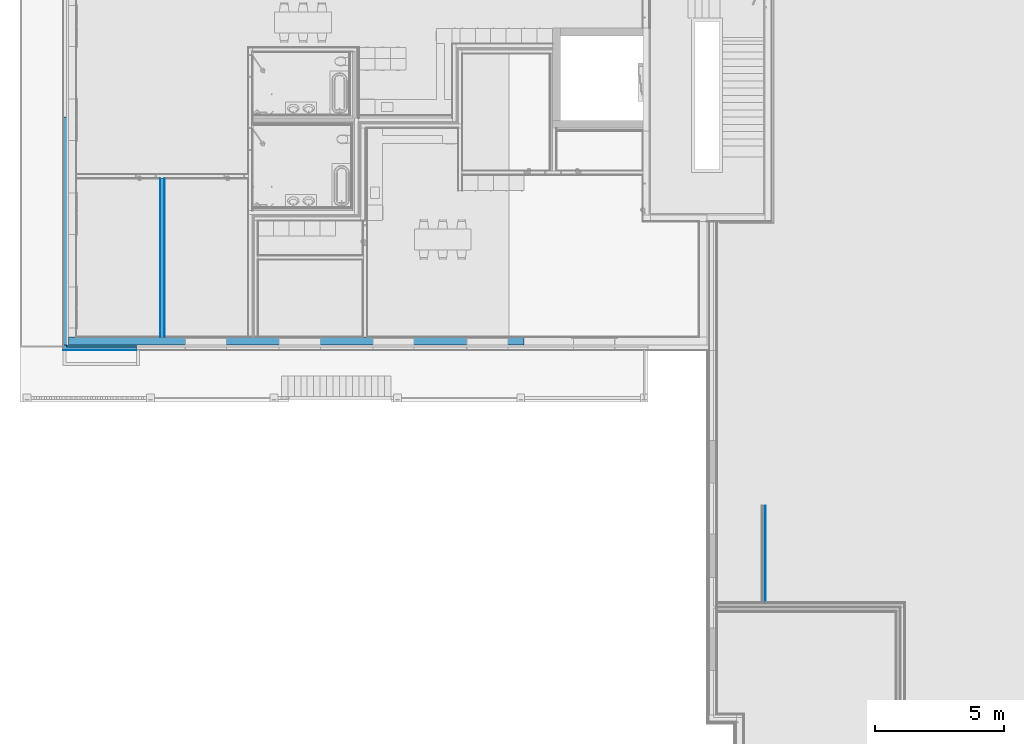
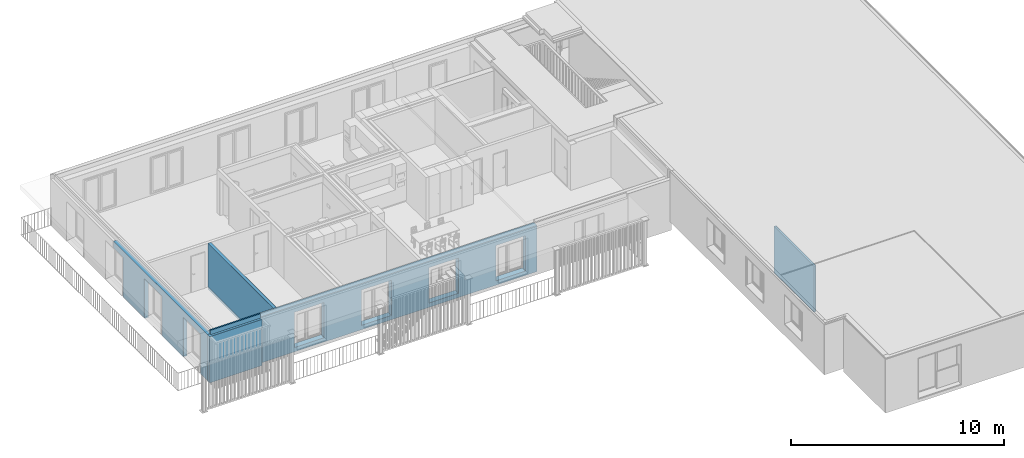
# One storey, part 5 of 34: 9 building element parts, 7 openings, 5 elements without a shape of their own.
"""IFC4 building model written with IfcOpenShell, lengths in millimetres."""

import ifcopenshell
import ifcopenshell.guid

model = None  # the IFC model being written
_history = None  # IfcOwnerHistory: only IFC2X3 demands one
_inside = {}  # id of a spatial element -> (the spatial element, [elements in it])
_under = {}  # id of a project, library or spatial element -> (it, [spatial elements below it])
_declared = {}  # id of a project -> (the project, [libraries it declares])
_typed = {}  # id of a type object -> (the type object, [elements of that type])
_made_of = {}  # id of a material, layer set ... -> (it, [elements and type objects made of it])


def new_model(schema):
    """Start an empty IFC model of exactly this schema.

    Asked for "IFC4X3", IfcOpenShell would pick the latest addendum, in which some entities
    have other attributes; the version numbers below select the first issue.
    IFC2X3 requires an IfcOwnerHistory on every rooted entity: one is made here for all.
    """
    global model, _history
    if schema == "IFC4X3":
        model = ifcopenshell.file(schema_version=(4, 3, 0, 0))
    else:
        model = ifcopenshell.file(schema=schema)
    _inside.clear()
    _under.clear()
    _declared.clear()
    _typed.clear()
    _made_of.clear()
    _history = None
    if model.schema == "IFC2X3":
        org = make("IfcOrganization", Name="unknown")
        user = make(
            "IfcPersonAndOrganization",
            ThePerson=make("IfcPerson", FamilyName="unknown"),
            TheOrganization=org,
        )
        app = make(
            "IfcApplication",
            ApplicationDeveloper=org,
            Version="unknown",
            ApplicationFullName="unknown",
            ApplicationIdentifier="unknown",
        )
        _history = make(
            "IfcOwnerHistory",
            OwningUser=user,
            OwningApplication=app,
            ChangeAction="ADDED",
            CreationDate=0,
        )
    return model


def make(cls, **values):
    """One entity of the class cls with the attributes given. An attribute that is None is left unset."""
    return model.create_entity(
        cls, **{name: value for name, value in values.items() if value is not None}
    )


def entity(cls, *values):
    """Any entity or typed value of the class cls, its attributes in the order of the schema. None: left unset."""
    e = model.create_entity(cls)
    for i, value in enumerate(values):
        if value is not None:
            e[i] = value
    return e


def rooted(cls, **values):
    """An entity with a GlobalId (a new one), such as an element, a storey or a relation."""
    return make(cls, GlobalId=ifcopenshell.guid.new(), OwnerHistory=_history, **values)


def si_unit(unit_type, name, prefix=None):
    """IfcSIUnit, for example si_unit("LENGTHUNIT", "METRE", prefix="MILLI")."""
    return make("IfcSIUnit", UnitType=unit_type, Prefix=prefix, Name=name)


def converted_unit(unit_type, name, factor, base, dimensions=None, offset=None):
    """IfcConversionBasedUnit, such as the inch: factor (a typed value) times the base unit."""
    return make(
        "IfcConversionBasedUnit"
        if offset is None
        else "IfcConversionBasedUnitWithOffset",
        ConversionOffset=offset,
        Dimensions=None
        if dimensions is None
        else entity("IfcDimensionalExponents", *dimensions),
        UnitType=unit_type,
        Name=name,
        ConversionFactor=make(
            "IfcMeasureWithUnit", ValueComponent=factor, UnitComponent=base
        ),
    )


def derived_unit(unit_type, elements):
    """IfcDerivedUnit: a product of units, each with its exponent."""
    return make(
        "IfcDerivedUnit",
        Elements=[
            make("IfcDerivedUnitElement", Unit=unit, Exponent=power)
            for unit, power in elements
        ],
        UnitType=unit_type,
    )


def assignment(units):
    """IfcUnitAssignment: the units of a project."""
    return None if units is None else make("IfcUnitAssignment", Units=units)


def point(xyz):
    """IfcCartesianPoint."""
    return None if xyz is None else make("IfcCartesianPoint", Coordinates=xyz)


def direction(xyz):
    """IfcDirection."""
    return None if xyz is None else make("IfcDirection", DirectionRatios=xyz)


def frame(location, z_axis=None, x_axis=None):
    """IfcAxis2Placement3D, a coordinate frame: its origin and axes. An axis left out is left unset."""
    return make(
        "IfcAxis2Placement3D",
        Location=point(location),
        Axis=direction(z_axis),
        RefDirection=direction(x_axis),
    )


def origin_with_axes():
    """The frame at (0, 0, 0) with the z axis (0, 0, 1) and the x axis (1, 0, 0) written out."""
    return frame((0.0, 0.0, 0.0), z_axis=(0.0, 0.0, 1.0), x_axis=(1.0, 0.0, 0.0))


def place(relative_to, where):
    """IfcLocalPlacement: puts the frame where relative to a parent placement (None: the world)."""
    return make(
        "IfcLocalPlacement", PlacementRelTo=relative_to, RelativePlacement=where
    )


def context(
    kind, dimensions, precision=None, world=None, true_north=None, identifier=None
):
    """IfcGeometricRepresentationContext, for example the 3D "Model" context."""
    return make(
        "IfcGeometricRepresentationContext",
        ContextIdentifier=identifier,
        ContextType=kind,
        CoordinateSpaceDimension=dimensions,
        Precision=precision,
        WorldCoordinateSystem=world,
        TrueNorth=true_north,
    )


def subcontext(parent, identifier, kind, view, scale=None):
    """IfcGeometricRepresentationSubContext, for example "Body" below "Model"."""
    return make(
        "IfcGeometricRepresentationSubContext",
        ContextIdentifier=identifier,
        ContextType=kind,
        ParentContext=parent,
        TargetScale=scale,
        TargetView=view,
    )


def project(units=None, contexts=None):
    """IfcProject with its units and contexts."""
    return rooted(
        "IfcProject",
        Name="project",
        RepresentationContexts=contexts,
        UnitsInContext=assignment(units),
    )


def spatial(cls, under=None, at=None, **own):
    """A site, building, storey or space (cls), placed at a placement, below another one or the project."""
    s = rooted(cls, ObjectPlacement=at, **own)
    if under is not None:
        _under.setdefault(under.id(), (under, []))[1].append(s)
    return s


def point_list(points):
    """IfcCartesianPointList2D or 3D."""
    cls = (
        "IfcCartesianPointList2D" if len(points[0]) == 2 else "IfcCartesianPointList3D"
    )
    return make(cls, CoordList=points)


def polygons(points, faces, closed=None, point_numbers=None):
    """IfcPolygonalFaceSet: a face is its outer loop, then its inner loops; points numbered from 1."""
    made = []
    for loops in faces:
        if len(loops) == 1:
            made.append(make("IfcIndexedPolygonalFace", CoordIndex=loops[0]))
        else:
            made.append(
                make(
                    "IfcIndexedPolygonalFaceWithVoids",
                    CoordIndex=loops[0],
                    InnerCoordIndices=loops[1:],
                )
            )
    return make(
        "IfcPolygonalFaceSet",
        Coordinates=point_list(points),
        Closed=closed,
        Faces=made,
        PnIndex=point_numbers,
    )


def shape(context_of_items, identifier, shape_type, items):
    """IfcShapeRepresentation: the items that make up one representation, for example the "Body"."""
    return make(
        "IfcShapeRepresentation",
        ContextOfItems=context_of_items,
        RepresentationIdentifier=identifier,
        RepresentationType=shape_type,
        Items=items,
    )


def material(Name=None, Category=None):
    """IfcMaterial."""
    return make("IfcMaterial", Name=Name, Category=Category)


def made_of(thing, what):
    """Note that an element or type object is made of a material, layer set ...; save() writes the relation."""
    if what is not None:
        _made_of.setdefault(what.id(), (what, []))[1].append(thing)
    return thing


def type_object(cls, material=None, **own):
    """A type object (cls), such as IfcWallType, which elements share."""
    return made_of(rooted(cls, **own), material)


def element(
    cls,
    number,
    at=None,
    inside=None,
    cuts=None,
    type_object=None,
    material=None,
    context=None,
    identifier="Body",
    shape_type=None,
    held_by="IfcProductDefinitionShape",
    body=None,
    shapes=None,
    **own,
):
    """One element of the class cls, such as IfcWall. Its Tag is "e" and its number.

    at: its placement. inside: the storey or other place that contains it. cuts: it is an
    opening in that element (IfcRelVoidsElement). A single representation is given by context,
    identifier, shape_type and body (its items); several are given by shapes. held_by: the class
    of the entity that holds the representations. save() writes the other relations.
    """
    e = rooted(cls, Tag="e%d" % number, ObjectPlacement=at, **own)
    if body is not None:
        shapes = [shape(context, identifier, shape_type, body)]
    if shapes is not None:
        e.Representation = make(held_by, Representations=shapes)
    if inside is not None:
        _inside.setdefault(inside.id(), (inside, []))[1].append(e)
    if cuts is not None:
        rooted(
            "IfcRelVoidsElement", RelatingBuildingElement=cuts, RelatedOpeningElement=e
        )
    if type_object is not None:
        _typed.setdefault(type_object.id(), (type_object, []))[1].append(e)
    return made_of(e, material)


def aggregate(whole, parts):
    """IfcRelAggregates: a whole, such as a stair, and the parts it consists of."""
    return rooted("IfcRelAggregates", RelatingObject=whole, RelatedObjects=parts)


def save(model, path):
    """Write the relations noted so far, then the file.

    IfcRelAggregates (storeys below a building ...), IfcRelContainedInSpatialStructure (elements
    in a storey), IfcRelDefinesByType, IfcRelAssociatesMaterial and IfcRelDeclares: one each for
    every whole, place, type object, material and project.
    """
    for whole, parts in _under.values():
        aggregate(whole, parts)
    for where, things in _inside.values():
        rooted(
            "IfcRelContainedInSpatialStructure",
            RelatedElements=things,
            RelatingStructure=where,
        )
    for kind, things in _typed.values():
        rooted("IfcRelDefinesByType", RelatedObjects=things, RelatingType=kind)
    for what, things in _made_of.values():
        rooted("IfcRelAssociatesMaterial", RelatedObjects=things, RelatingMaterial=what)
    for by, libraries in _declared.values():
        rooted("IfcRelDeclares", RelatingContext=by, RelatedDefinitions=libraries)
    model.write(path)


model = new_model("IFC4")

# Units and contexts
model_context = context("Model", 3, precision=0.01, world=origin_with_axes(), true_north=direction((0.0, 1.0)))
body_context = subcontext(model_context, "Body", "Model", "MODEL_VIEW")
ifc_project = project(units=[si_unit("LENGTHUNIT", "METRE", prefix="MILLI"), si_unit("AREAUNIT", "SQUARE_METRE"), si_unit("VOLUMEUNIT", "CUBIC_METRE"), converted_unit("PLANEANGLEUNIT", "DEGREE", entity("IfcPlaneAngleMeasure", 0.0174532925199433), si_unit("PLANEANGLEUNIT", "RADIAN"), dimensions=[0, 0, 0, 0, 0, 0, 0]), converted_unit("TIMEUNIT", "Year", entity("IfcTimeMeasure", 31557600.0), si_unit("TIMEUNIT", "SECOND"), dimensions=[0, 0, 1, 0, 0, 0, 0]), si_unit("MASSUNIT", "GRAM", prefix="KILO"), si_unit("THERMODYNAMICTEMPERATUREUNIT", "DEGREE_CELSIUS"), si_unit("LUMINOUSINTENSITYUNIT", "LUMEN"), si_unit("ENERGYUNIT", "JOULE", prefix="MEGA"), derived_unit("THERMALCONDUCTANCEUNIT", [(si_unit("POWERUNIT", "WATT"), 1), (si_unit("LENGTHUNIT", "METRE"), -1), (si_unit("THERMODYNAMICTEMPERATUREUNIT", "KELVIN"), -1)]), derived_unit("SPECIFICHEATCAPACITYUNIT", [(si_unit("ENERGYUNIT", "JOULE"), 1), (si_unit("MASSUNIT", "GRAM", prefix="KILO"), -1), (si_unit("THERMODYNAMICTEMPERATUREUNIT", "KELVIN"), -1)]), derived_unit("MASSDENSITYUNIT", [(si_unit("MASSUNIT", "GRAM", prefix="KILO"), 1), (si_unit("VOLUMEUNIT", "CUBIC_METRE"), -1)])], contexts=[model_context])

# Site, building, storey
site_placement = place(None, origin_with_axes())
site = spatial("IfcSite", under=ifc_project, at=site_placement, Name="Gelände", CompositionType="ELEMENT")
building_placement = place(site_placement, origin_with_axes())
building = spatial("IfcBuilding", under=site, at=building_placement, Name="Gebäude", CompositionType="ELEMENT")
storey_placement = place(building_placement, frame((0.0, 0.0, 2900.0), z_axis=(0.0, 0.0, 1.0), x_axis=(1.0, 0.0, 0.0)))
storey = spatial("IfcBuildingStorey", under=building, at=storey_placement, Name="1.OG", CompositionType="ELEMENT", Elevation=2900.0)

# Wall, building element parts
wall_type_1 = type_object("IfcWallType", Name="Innenwand Typ 01 154", PredefinedType="NOTDEFINED")
wall_1_placement = place(storey_placement, frame((20053.50474128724, 13160.59728131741, 500.0), z_axis=(0.0, 0.0, 1.0), x_axis=(0.0, 1.0, 0.0)))
wall_1 = element("IfcWall", 1, at=wall_1_placement, inside=storey, type_object=wall_type_1, Name="Wand-014", PredefinedType="NOTDEFINED")
ifc_material_1 = material(Name="Ständer Konstruktion gedämmt")
building_element_part_1_placement = place(wall_1_placement, origin_with_axes())
building_element_part_1 = element("IfcBuildingElementPart", 2, at=building_element_part_1_placement, material=ifc_material_1, Name="Ständer Konstruktion gedämmt", PredefinedType="NOTDEFINED", context=body_context, shape_type="Tessellation", body=[
    polygons([(3761.05371447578, -126.9999999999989, 2643.999999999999), (3761.05371447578, -27.00000000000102, 2643.999999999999), (-9.999999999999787, -27.00000000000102, 2643.999999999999), (-9.999999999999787, -126.9999999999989, 2643.999999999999), (3761.05371447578, -126.9999999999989, 0.0), (3761.05371447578, -27.00000000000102, 0.0), (-9.999999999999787, -27.00000000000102, 0.0), (-9.999999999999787, -126.9999999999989, 0.0)], [[[1, 2, 3, 4]], [[1, 5, 6, 2]], [[2, 6, 7, 3]], [[4, 3, 7, 8]], [[5, 1, 4, 8]], [[6, 5, 8, 7]]], closed=True),
])
ifc_material_2 = material(Name="Dreischichtplatte DSP")
building_element_part_2_placement = place(wall_1_placement, origin_with_axes())
building_element_part_2 = element("IfcBuildingElementPart", 3, at=building_element_part_2_placement, material=ifc_material_2, Name="Dreischichtplatte DSP", PredefinedType="NOTDEFINED", context=body_context, shape_type="Tessellation", body=[
    polygons([(3761.05371447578, -153.9999999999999, 2643.999999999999), (3761.05371447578, -126.9999999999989, 2643.999999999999), (-9.999999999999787, -126.9999999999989, 2643.999999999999), (-9.999999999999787, -153.9999999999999, 2643.999999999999), (3761.05371447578, -153.9999999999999, 0.0), (3761.05371447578, -126.9999999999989, 0.0), (-9.999999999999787, -126.9999999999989, 0.0), (-9.999999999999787, -153.9999999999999, 0.0)], [[[1, 2, 3, 4]], [[1, 5, 6, 2]], [[2, 6, 7, 3]], [[4, 3, 7, 8]], [[5, 1, 4, 8]], [[6, 5, 8, 7]]], closed=True),
])
aggregate(wall_1, [building_element_part_1, building_element_part_2])

# Curtain wall, openings, building element part
curtain_wall_type = type_object("IfcCurtainWallType", Name="Fassade Typ 01 - Kompaktfassade 210", PredefinedType="NOTDEFINED")
curtain_wall_1_placement = place(storey_placement, frame((-7071.004181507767, 31997.59699912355, 0.0), z_axis=(0.0, 0.0, 1.0), x_axis=(0.0, -1.0, 0.0)))
curtain_wall_1 = element("IfcCurtainWall", 4, at=curtain_wall_1_placement, inside=storey, type_object=curtain_wall_type, Name="Wand-014", PredefinedType="NOTDEFINED")
opening_1_placement = place(curtain_wall_1_placement, frame((3745.99971780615, 0.0, 0.0), z_axis=(0.0, 0.0, 1.0), x_axis=(1.0, 0.0, 0.0)))
element("IfcOpeningElement", 5, at=opening_1_placement, cuts=curtain_wall_1, Name="Fenster-004", context=body_context, identifier="Reference", shape_type="Tessellation", body=[
    polygons([(-801.9999999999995, -1.000000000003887, 2271.999948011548), (-801.9999999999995, -1.000000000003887, 0.0), (801.9999999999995, -1.000000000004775, 0.0), (801.9999999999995, -1.000000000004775, 2271.999948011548), (-801.9999999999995, 211.0000000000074, 2271.999948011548), (-801.9999999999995, 211.0000000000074, 0.0), (801.9999999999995, 211.0000000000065, 0.0), (801.9999999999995, 211.0000000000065, 2271.999948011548)], [[[1, 2, 3, 4]], [[5, 6, 2, 1]], [[6, 7, 3, 2]], [[7, 8, 4, 3]], [[8, 5, 1, 4]], [[7, 6, 5, 8]]], closed=True),
])
opening_2_placement = place(curtain_wall_1_placement, frame((103.9997178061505, 0.0, 0.0), z_axis=(0.0, 0.0, 1.0), x_axis=(1.0, 0.0, 0.0)))
element("IfcOpeningElement", 6, at=opening_2_placement, cuts=curtain_wall_1, Name="Fenster-004", context=body_context, identifier="Reference", shape_type="Tessellation", body=[
    polygons([(-802.0000000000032, -1.000000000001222, 2271.999948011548), (-802.0000000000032, -1.00000000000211, 0.0), (801.9999999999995, -1.00000000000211, 0.0), (801.9999999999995, -1.00000000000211, 2271.999948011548), (-802.0000000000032, 211.0000000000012, 2271.999948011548), (-802.0000000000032, 211.0000000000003, 0.0), (801.9999999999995, 211.0000000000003, 0.0), (801.9999999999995, 211.0000000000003, 2271.999948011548)], [[[1, 2, 3, 4]], [[5, 6, 2, 1]], [[6, 7, 3, 2]], [[7, 8, 4, 3]], [[8, 5, 1, 4]], [[7, 6, 5, 8]]], closed=True),
])
opening_3_placement = place(curtain_wall_1_placement, frame((7387.999717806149, 0.0, 0.0), z_axis=(0.0, 0.0, 1.0), x_axis=(1.0, 0.0, 0.0)))
element("IfcOpeningElement", 7, at=opening_3_placement, cuts=curtain_wall_1, Name="Fenster-004", context=body_context, identifier="Reference", shape_type="Tessellation", body=[
    polygons([(-801.9999999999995, -1.000000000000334, 2271.999948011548), (-801.9999999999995, -1.000000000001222, 0.0), (801.9999999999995, -1.000000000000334, 0.0), (801.9999999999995, -1.000000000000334, 2271.999948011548), (-801.9999999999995, 211.0000000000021, 2271.999948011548), (-801.9999999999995, 211.0000000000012, 0.0), (801.9999999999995, 211.0000000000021, 0.0), (801.9999999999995, 211.0000000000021, 2271.999948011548)], [[[1, 2, 3, 4]], [[5, 6, 2, 1]], [[6, 7, 3, 2]], [[7, 8, 4, 3]], [[8, 5, 1, 4]], [[7, 6, 5, 8]]], closed=True),
])
ifc_material_3 = material(Name="Dämmung Aussen")
building_element_part_3_placement = place(curtain_wall_1_placement, origin_with_axes())
building_element_part_3 = element("IfcBuildingElementPart", 8, at=building_element_part_3_placement, material=ifc_material_3, Name="Dämmung Aussen", PredefinedType="NOTDEFINED", context=body_context, shape_type="Tessellation", body=[
    polygons([(8189.999717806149, 210.0000000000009, 0.0), (8189.999717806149, 210.0000000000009, 2271.999948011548), (6585.999717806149, 210.0, 2271.999948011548), (6585.999717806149, 210.0, 0.0), (4547.999717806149, 210.0, 0.0), (4547.999717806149, 210.0, 2271.999948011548), (2943.99971780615, 210.0000000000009, 2271.999948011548), (2943.99971780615, 210.0000000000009, 0.0), (905.9997178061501, 210.0, 0.0), (905.9997178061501, 210.0, 2271.999948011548), (0.0, 210.0, 2271.999948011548), (0.0, 210.0, 2649.999948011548), (8840.000258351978, 210.0000000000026, 2649.999948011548), (8840.000258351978, 210.0000000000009, 0.0), (8189.999717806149, 10.00000000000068, 0.0), (8189.999717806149, 10.00000000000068, 2271.999948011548), (6585.999717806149, 9.999999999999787, 2271.999948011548), (6585.999717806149, 9.999999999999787, 0.0), (4547.999717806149, 9.999999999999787, 0.0), (4547.999717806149, 10.00000000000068, 2271.999948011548), (2943.99971780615, 10.00000000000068, 2271.999948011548), (2943.99971780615, 10.00000000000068, 0.0), (905.9997178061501, 9.999999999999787, 0.0), (905.9997178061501, 9.999999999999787, 2271.999948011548), (0.0, 9.999999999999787, 2271.999948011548), (0.0, 9.999999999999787, 2649.999999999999), (8840.000258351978, 10.00000000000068, 2649.999999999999), (8840.000258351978, 130.0000000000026, 2649.999948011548), (8840.000258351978, 10.00000000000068, 0.0)], [[[1, 2, 3, 4, 5, 6, 7, 8, 9, 10, 11, 12, 13, 14]], [[2, 1, 15, 16]], [[3, 2, 16, 17]], [[4, 3, 17, 18]], [[4, 18, 19, 5]], [[19, 20, 6, 5]], [[20, 21, 7, 6]], [[21, 22, 8, 7]], [[9, 8, 22, 23]], [[9, 23, 24, 10]], [[11, 10, 24, 25]], [[25, 26, 12, 11]], [[13, 12, 26, 27, 28]], [[28, 27, 29, 14, 13]], [[15, 1, 14, 29]], [[16, 15, 29, 27, 26, 25, 24, 23, 22, 21, 20, 19, 18, 17]]], closed=True),
])
aggregate(curtain_wall_1, [building_element_part_3])

# Curtain wall, building element parts
curtain_wall_2_placement = place(storey_placement, frame((-7071.004181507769, 22947.59674077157, 0.0), z_axis=(0.0, 0.0, 1.0), x_axis=(1.0, 0.0, 0.0)))
curtain_wall_2 = element("IfcCurtainWall", 9, at=curtain_wall_2_placement, inside=storey, type_object=curtain_wall_type, Name="Wand-014", PredefinedType="NOTDEFINED")
building_element_part_4_placement = place(curtain_wall_2_placement, origin_with_axes())
building_element_part_4 = element("IfcBuildingElementPart", 10, at=building_element_part_4_placement, material=ifc_material_3, Name="Dämmung Aussen", PredefinedType="NOTDEFINED", context=body_context, shape_type="Tessellation", body=[
    polygons([(9.999999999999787, 210.0000000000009, 0.0), (9.999999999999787, 210.0000000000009, 2649.999999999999), (130.0000000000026, 210.0000000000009, 2649.999999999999), (130.0000000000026, 210.0000000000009, 2899.999999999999), (2842.75757867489, 210.0000000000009, 2899.999999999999), (2842.75757867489, 210.0000000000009, 0.0), (9.999999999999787, 10.00000000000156, 2649.999999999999), (9.999999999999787, 10.00000000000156, 0.0), (2842.757578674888, 129.999965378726, 2649.999999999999), (130.0000000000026, 130.0000000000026, 2649.999999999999), (2842.75757867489, 10.00000000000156, 2649.999999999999), (130.0000000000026, 130.0000000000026, 2899.999999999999), (2842.75757867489, 129.999965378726, 2899.999999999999), (2842.75757867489, 10.00000000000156, 0.0)], [[[1, 2, 3, 4, 5, 6]], [[7, 2, 1, 8]], [[9, 10, 3, 2, 7, 11]], [[10, 12, 4, 3]], [[5, 4, 12, 13]], [[13, 9, 11, 14, 6, 5]], [[8, 1, 6, 14]], [[14, 11, 7, 8]], [[13, 12, 10, 9]]], closed=True),
])
ifc_material_4 = material(Name="Zementputz Aussen")
building_element_part_5_placement = place(curtain_wall_2_placement, origin_with_axes())
building_element_part_5 = element("IfcBuildingElementPart", 11, at=building_element_part_5_placement, material=ifc_material_4, Name="Zementputz Aussen", PredefinedType="NOTDEFINED", context=body_context, shape_type="Tessellation", body=[
    polygons([(0.0, 10.00000000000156, 2649.999999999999), (2842.75757867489, 10.00000000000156, 2649.999999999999), (2842.75757867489, 10.00000000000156, 0.0), (0.0, 10.00000000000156, 0.0), (2842.75757867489, 0.0, 2649.999999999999), (0.0, 0.0, 2649.999999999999), (2842.75757867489, 0.0, 0.0), (0.0, 0.0, 0.0)], [[[1, 2, 3, 4]], [[5, 2, 1, 6]], [[2, 5, 7, 3]], [[4, 3, 7, 8]], [[6, 1, 4, 8]], [[5, 6, 8, 7]]], closed=True),
])
aggregate(curtain_wall_2, [building_element_part_4, building_element_part_5])

# Wall, building element parts
wall_type_2 = type_object("IfcWallType", Name="Innenwand Typ 05 170", PredefinedType="NOTDEFINED")
wall_2_placement = place(storey_placement, frame((-3216.004181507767, 29785.08426010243, 0.0), z_axis=(0.0, 0.0, 1.0), x_axis=(0.0, -1.0, 0.0)))
wall_2 = element("IfcWall", 12, at=wall_2_placement, inside=storey, type_object=wall_type_2, Name="Wand-014", PredefinedType="NOTDEFINED")
ifc_material_5 = material(Name="Kalkzementputz Aussen")
building_element_part_6_placement = place(wall_2_placement, origin_with_axes())
building_element_part_6 = element("IfcBuildingElementPart", 13, at=building_element_part_6_placement, material=ifc_material_5, Name="Kalkzementputz Aussen", PredefinedType="NOTDEFINED", context=body_context, shape_type="Tessellation", body=[
    polygons([(6327.487519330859, 85.00000000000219, 149.9999999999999), (170.0000000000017, 84.99999999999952, 149.9999999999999), (170.0000000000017, 84.99999999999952, 2649.999948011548), (6327.487519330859, 85.00000000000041, 2649.999948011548), (170.0000000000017, 74.99999999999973, 149.9999999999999), (6327.487519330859, 75.00000000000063, 149.9999999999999), (170.0000000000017, 74.99999999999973, 2649.999948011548), (6327.487519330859, 75.00000000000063, 2649.999948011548)], [[[1, 2, 3, 4]], [[5, 2, 1, 6]], [[2, 5, 7, 3]], [[7, 8, 4, 3]], [[6, 1, 4, 8]], [[5, 6, 8, 7]]], closed=True),
])
building_element_part_7_placement = place(wall_2_placement, origin_with_axes())
building_element_part_7 = element("IfcBuildingElementPart", 14, at=building_element_part_7_placement, material=ifc_material_5, Name="Kalkzementputz Aussen", PredefinedType="NOTDEFINED", context=body_context, shape_type="Tessellation", body=[
    polygons([(6327.487519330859, -75.0000000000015, 149.9999999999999), (170.0000000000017, -75.00000000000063, 149.9999999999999), (170.0000000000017, -74.99999999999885, 2649.999948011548), (6327.487519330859, -74.99999999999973, 2649.999948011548), (170.0000000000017, -85.00000000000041, 149.9999999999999), (6327.487519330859, -84.99999999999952, 149.9999999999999), (170.0000000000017, -85.00000000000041, 2649.999948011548), (6327.487519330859, -84.99999999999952, 2649.999948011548)], [[[1, 2, 3, 4]], [[5, 2, 1, 6]], [[2, 5, 7, 3]], [[7, 8, 4, 3]], [[6, 1, 4, 8]], [[5, 6, 8, 7]]], closed=True),
])
ifc_material_6 = material(Name="MW, Backstein")
building_element_part_8_placement = place(wall_2_placement, origin_with_axes())
building_element_part_8 = element("IfcBuildingElementPart", 15, at=building_element_part_8_placement, material=ifc_material_6, Name="MW, Backstein", PredefinedType="NOTDEFINED", context=body_context, shape_type="Tessellation", body=[
    polygons([(6327.487519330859, -74.99999999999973, 2649.999948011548), (6327.487519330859, 75.00000000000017, 2649.999948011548), (160.0000000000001, 75.00000000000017, 2649.999948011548), (160.0000000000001, -74.99999999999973, 2649.999948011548), (6327.487519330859, -74.99999999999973, 0.0), (6327.487519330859, 75.00000000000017, 0.0), (160.0000000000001, 75.00000000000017, 0.0), (160.0000000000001, -75.00000000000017, 0.0)], [[[1, 2, 3, 4]], [[1, 5, 6, 2]], [[2, 6, 7, 3]], [[4, 3, 7, 8]], [[5, 1, 4, 8]], [[6, 5, 8, 7]]], closed=True),
])
aggregate(wall_2, [building_element_part_6, building_element_part_7, building_element_part_8])

# Wall, openings, building element part
wall_type_3 = type_object("IfcWallType", Name="Aussenwand Typ 06 310", PredefinedType="NOTDEFINED")
wall_3_placement = place(storey_placement, frame((-6861.004181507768, 23157.59674077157, 0.0), z_axis=(0.0, 0.0, 1.0), x_axis=(1.0, 0.0, 0.0)))
wall_3 = element("IfcWall", 16, at=wall_3_placement, inside=storey, type_object=wall_type_3, Name="Wand-014", PredefinedType="NOTDEFINED")
opening_4_placement = place(wall_3_placement, frame((5334.0, 0.0, 309.999948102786), z_axis=(0.0, 0.0, 1.0), x_axis=(1.0, 0.0, 0.0)))
element("IfcOpeningElement", 17, at=opening_4_placement, cuts=wall_3, Name="Fenster-004", context=body_context, identifier="Reference", shape_type="Tessellation", body=[
    polygons([(-800.0000000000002, 0.0, 1961.999999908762), (800.0000000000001, 0.0, 1961.999999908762), (800.0, -1.000000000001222, 1961.999999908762), (802.0000000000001, -1.000000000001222, 1961.999999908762), (802.0000000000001, 250.0, 1961.999999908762), (-802.0, 250.0, 1961.999999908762), (-802.0, -1.000000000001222, 1961.999999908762), (-800.0000000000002, -1.000000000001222, 1961.999999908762), (-800.0000000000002, 0.0, 2249.999999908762), (800.0000000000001, 0.0, 2249.999999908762), (800.0000000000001, -149.9999999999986, 2249.999999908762), (800.0000000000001, -149.9999999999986, 1959.999999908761), (800.0000000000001, -1.000000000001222, 1959.999999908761), (-800.0000000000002, -1.000000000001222, 1959.999999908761), (-802.0, -1.000000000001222, -60.00000000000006), (802.0000000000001, -1.000000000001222, -60.00000000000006), (802.0000000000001, 250.0, -60.00000000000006), (902.0000000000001, 250.0, -60.00000000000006), (902.0000000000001, 250.0, 2061.999999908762), (-902.0000000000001, 250.0, 2061.999999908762), (-902.0000000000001, 250.0, -60.00000000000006), (-802.0, 250.0, -60.00000000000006), (-800.0000000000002, -149.9999999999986, 1959.999999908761), (-800.0000000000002, -149.9999999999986, 2249.999999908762), (-902.0000000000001, 310.9999999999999, -60.00000000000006), (902.0000000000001, 310.9999999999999, -60.00000000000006), (902.0000000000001, 310.9999999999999, 2061.999999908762), (-902.0000000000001, 310.9999999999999, 2061.999999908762)], [[[1, 2, 3, 4, 5, 6, 7, 8]], [[2, 1, 9, 10]], [[3, 2, 10, 11, 12, 13]], [[14, 8, 7, 15, 16, 4, 3, 13]], [[17, 5, 4, 16]], [[6, 5, 17, 18, 19, 20, 21, 22]], [[6, 22, 15, 7]], [[1, 8, 14, 23, 24, 9]], [[9, 24, 11, 10]], [[24, 23, 12, 11]], [[14, 13, 12, 23]], [[22, 17, 16, 15]], [[17, 22, 21, 25, 26, 18]], [[19, 18, 26, 27]], [[20, 19, 27, 28]], [[21, 20, 28, 25]], [[27, 26, 25, 28]]], closed=True),
])
opening_5_placement = place(wall_3_placement, frame((12618.0, 0.0, 309.999948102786), z_axis=(0.0, 0.0, 1.0), x_axis=(1.0, 0.0, 0.0)))
element("IfcOpeningElement", 18, at=opening_5_placement, cuts=wall_3, Name="Fenster-004", context=body_context, identifier="Reference", shape_type="Tessellation", body=[
    polygons([(-800.0000000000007, 0.0, 1961.999999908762), (799.9999999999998, 0.0, 1961.999999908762), (799.9999999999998, -1.000000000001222, 1961.999999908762), (802.0000000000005, -1.000000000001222, 1961.999999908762), (802.0000000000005, 250.0, 1961.999999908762), (-802.0000000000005, 250.0, 1961.999999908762), (-802.0000000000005, -1.000000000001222, 1961.999999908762), (-800.0000000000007, -1.000000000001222, 1961.999999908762), (-800.0000000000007, 0.0, 2249.999999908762), (799.9999999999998, 0.0, 2249.999999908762), (799.9999999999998, -149.9999999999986, 2249.999999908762), (799.9999999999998, -149.9999999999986, 1959.999999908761), (799.9999999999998, -1.000000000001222, 1959.999999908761), (-800.0000000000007, -1.000000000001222, 1959.999999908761), (-802.0000000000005, -1.000000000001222, -60.00000000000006), (802.0000000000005, -1.000000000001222, -60.00000000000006), (802.0000000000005, 250.0, -60.00000000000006), (902.0000000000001, 250.0, -60.00000000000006), (902.0000000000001, 250.0, 2061.999999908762), (-902.0000000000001, 250.0, 2061.999999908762), (-902.0000000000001, 250.0, -60.00000000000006), (-802.0000000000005, 250.0, -60.00000000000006), (-800.0000000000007, -149.9999999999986, 1959.999999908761), (-800.0000000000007, -149.9999999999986, 2249.999999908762), (-902.0000000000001, 310.9999999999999, -60.00000000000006), (902.0000000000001, 310.9999999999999, -60.00000000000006), (902.0000000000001, 310.9999999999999, 2061.999999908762), (-902.0000000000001, 310.9999999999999, 2061.999999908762)], [[[1, 2, 3, 4, 5, 6, 7, 8]], [[2, 1, 9, 10]], [[3, 2, 10, 11, 12, 13]], [[14, 8, 7, 15, 16, 4, 3, 13]], [[17, 5, 4, 16]], [[6, 5, 17, 18, 19, 20, 21, 22]], [[6, 22, 15, 7]], [[1, 8, 14, 23, 24, 9]], [[9, 24, 11, 10]], [[24, 23, 12, 11]], [[14, 13, 12, 23]], [[22, 17, 16, 15]], [[17, 22, 21, 25, 26, 18]], [[19, 18, 26, 27]], [[20, 19, 27, 28]], [[21, 20, 28, 25]], [[27, 26, 25, 28]]], closed=True),
])
opening_6_placement = place(wall_3_placement, frame((8976.0, 0.0, 309.999948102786), z_axis=(0.0, 0.0, 1.0), x_axis=(1.0, 0.0, 0.0)))
element("IfcOpeningElement", 19, at=opening_6_placement, cuts=wall_3, Name="Fenster-004", context=body_context, identifier="Reference", shape_type="Tessellation", body=[
    polygons([(-800.0, 0.0, 1961.999999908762), (800.0000000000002, 0.0, 1961.999999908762), (800.0000000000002, -1.000000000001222, 1961.999999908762), (802.0, -1.000000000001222, 1961.999999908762), (802.0, 250.0, 1961.999999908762), (-802.0, 250.0, 1961.999999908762), (-802.0, -1.000000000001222, 1961.999999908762), (-800.0, -1.000000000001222, 1961.999999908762), (-800.0, 0.0, 2249.999999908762), (800.0000000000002, 0.0, 2249.999999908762), (800.0000000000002, -149.9999999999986, 2249.999999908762), (800.0000000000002, -149.9999999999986, 1959.999999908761), (800.0000000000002, -1.000000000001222, 1959.999999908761), (-800.0, -1.000000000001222, 1959.999999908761), (-802.0, -1.000000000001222, -60.00000000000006), (802.0, -1.000000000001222, -60.00000000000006), (802.0, 250.0, -60.00000000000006), (902.0000000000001, 250.0, -60.00000000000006), (902.0000000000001, 250.0, 2061.999999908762), (-902.0000000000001, 250.0, 2061.999999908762), (-902.0000000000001, 250.0, -60.00000000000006), (-802.0000000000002, 250.0, -60.00000000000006), (-800.0, -149.9999999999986, 1959.999999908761), (-800.0, -149.9999999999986, 2249.999999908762), (-902.0000000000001, 310.9999999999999, -60.00000000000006), (902.0000000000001, 310.9999999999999, -60.00000000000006), (902.0000000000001, 310.9999999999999, 2061.999999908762), (-902.0000000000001, 310.9999999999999, 2061.999999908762)], [[[1, 2, 3, 4, 5, 6, 7, 8]], [[2, 1, 9, 10]], [[3, 2, 10, 11, 12, 13]], [[14, 8, 7, 15, 16, 4, 3, 13]], [[17, 5, 4, 16]], [[6, 5, 17, 18, 19, 20, 21, 22]], [[6, 22, 15, 7]], [[1, 8, 14, 23, 24, 9]], [[9, 24, 11, 10]], [[24, 23, 12, 11]], [[14, 13, 12, 23]], [[22, 17, 16, 15]], [[17, 22, 21, 25, 26, 18]], [[19, 18, 26, 27]], [[20, 19, 27, 28]], [[21, 20, 28, 25]], [[27, 26, 25, 28]]], closed=True),
])
opening_7_placement = place(wall_3_placement, frame((16260.0, 0.0, 309.999948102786), z_axis=(0.0, 0.0, 1.0), x_axis=(1.0, 0.0, 0.0)))
element("IfcOpeningElement", 20, at=opening_7_placement, cuts=wall_3, Name="Fenster-004", context=body_context, identifier="Reference", shape_type="Tessellation", body=[
    polygons([(-799.999999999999, 0.0, 1961.999999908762), (800.0000000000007, 0.0, 1961.999999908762), (800.0000000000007, -1.000000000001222, 1961.999999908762), (801.9999999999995, -1.000000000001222, 1961.999999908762), (801.9999999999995, 250.0, 1961.999999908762), (-801.9999999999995, 250.0, 1961.999999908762), (-801.9999999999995, -1.000000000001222, 1961.999999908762), (-799.999999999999, -1.000000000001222, 1961.999999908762), (-799.999999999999, 0.0, 2249.999999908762), (800.0000000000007, 0.0, 2249.999999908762), (800.0000000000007, -149.9999999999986, 2249.999999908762), (800.0000000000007, -149.9999999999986, 1959.999999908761), (800.0000000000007, -1.000000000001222, 1959.999999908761), (-799.999999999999, -1.000000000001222, 1959.999999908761), (-801.9999999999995, -1.000000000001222, -60.00000000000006), (801.9999999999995, -1.000000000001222, -60.00000000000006), (801.9999999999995, 250.0, -60.00000000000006), (901.9999999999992, 250.0, -60.00000000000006), (901.9999999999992, 250.0, 2061.999999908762), (-901.9999999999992, 250.0, 2061.999999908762), (-901.9999999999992, 250.0, -60.00000000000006), (-801.9999999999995, 250.0, -60.00000000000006), (-799.999999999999, -149.9999999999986, 1959.999999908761), (-799.999999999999, -149.9999999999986, 2249.999999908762), (-901.9999999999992, 310.9999999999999, -60.00000000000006), (901.9999999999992, 310.9999999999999, -60.00000000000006), (901.9999999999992, 310.9999999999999, 2061.999999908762), (-901.9999999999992, 310.9999999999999, 2061.999999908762)], [[[1, 2, 3, 4, 5, 6, 7, 8]], [[2, 1, 9, 10]], [[3, 2, 10, 11, 12, 13]], [[14, 8, 7, 15, 16, 4, 3, 13]], [[17, 5, 4, 16]], [[6, 5, 17, 18, 19, 20, 21, 22]], [[6, 22, 15, 7]], [[1, 8, 14, 23, 24, 9]], [[9, 24, 11, 10]], [[24, 23, 12, 11]], [[14, 13, 12, 23]], [[22, 17, 16, 15]], [[17, 22, 21, 25, 26, 18]], [[19, 18, 26, 27]], [[20, 19, 27, 28]], [[21, 20, 28, 25]], [[27, 26, 25, 28]]], closed=True),
])
ifc_material_7 = material(Name="Beton bewehrt")
building_element_part_9_placement = place(wall_3_placement, origin_with_axes())
building_element_part_9 = element("IfcBuildingElementPart", 21, at=building_element_part_9_placement, material=ifc_material_7, Name="Beton bewehrt", PredefinedType="NOTDEFINED", context=body_context, shape_type="Tessellation", body=[
    polygons([(15458.0, 250.0, 2271.999948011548), (17062.0, 250.0, 2271.999948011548), (17062.0, 0.0, 2271.999948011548), (15458.0, 0.0, 2271.999948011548), (17062.0, 250.0, 249.9999481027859), (15458.0, 250.0, 249.9999481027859), (15358.0, 250.0, 249.9999481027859), (15358.0, 250.0, 2371.999948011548), (17162.0, 250.0, 2371.999948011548), (17162.0, 250.0, 249.9999481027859), (17062.0, 0.0, 249.9999481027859), (17690.00162627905, 0.0, 0.0), (17690.00162627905, 0.0, 2649.999999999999), (0.0, 0.0, 2649.999999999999), (0.0, 0.0, 0.0), (6135.999999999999, 0.0, 249.9999481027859), (4532.0, 0.0, 249.9999481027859), (4532.0, 0.0, 2271.999948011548), (6135.999999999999, 0.0, 2271.999948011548), (8173.999999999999, 0.0, 2271.999948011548), (9777.999999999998, 0.0, 2271.999948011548), (9777.999999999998, 0.0, 249.9999481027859), (8173.999999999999, 0.0, 249.9999481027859), (13420.0, 0.0, 249.9999481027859), (11816.0, 0.0, 249.9999481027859), (11816.0, 0.0, 2271.999948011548), (13420.0, 0.0, 2271.999948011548), (15458.0, 0.0, 249.9999481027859), (17162.0, 300.0000000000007, 249.9999481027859), (15358.0, 300.0000000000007, 249.9999481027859), (15358.0, 300.0000000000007, 2371.999948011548), (17162.0, 300.0000000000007, 2371.999948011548), (17690.00162627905, 300.0000000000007, 0.0), (17690.00162627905, 300.0000000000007, 2649.999999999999), (0.0, 300.0000000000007, 2649.999999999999), (0.0, 300.0000000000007, 0.0), (6135.999999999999, 250.0, 249.9999481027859), (4532.0, 250.0, 249.9999481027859), (4532.0, 250.0, 2271.999948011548), (6135.999999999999, 250.0, 2271.999948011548), (8173.999999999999, 250.0, 2271.999948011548), (9777.999999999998, 250.0, 2271.999948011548), (9777.999999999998, 250.0, 249.9999481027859), (8173.999999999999, 250.0, 249.9999481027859), (13420.0, 250.0, 249.9999481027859), (11816.0, 250.0, 249.9999481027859), (11816.0, 250.0, 2271.999948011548), (13420.0, 250.0, 2271.999948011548), (6236.0, 300.0000000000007, 2371.999948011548), (4432.0, 300.0000000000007, 2371.999948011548), (4432.0, 300.0000000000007, 249.9999481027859), (6236.0, 300.0000000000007, 249.9999481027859), (8073.999999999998, 300.0000000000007, 249.9999481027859), (9878.0, 300.0000000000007, 249.9999481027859), (9878.0, 300.0000000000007, 2371.999948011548), (8073.999999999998, 300.0000000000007, 2371.999948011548), (13520.0, 300.0000000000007, 2371.999948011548), (11716.0, 300.0000000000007, 2371.999948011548), (11716.0, 300.0000000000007, 249.9999481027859), (13520.0, 300.0000000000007, 249.9999481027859), (4432.0, 250.0, 249.9999481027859), (6236.0, 250.0, 249.9999481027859), (6236.0, 250.0, 2371.999948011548), (4432.0, 250.0, 2371.999948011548), (8073.999999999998, 250.0, 249.9999481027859), (8073.999999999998, 250.0, 2371.999948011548), (9878.0, 250.0, 2371.999948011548), (9878.0, 250.0, 249.9999481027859), (11716.0, 250.0, 249.9999481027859), (13520.0, 250.0, 249.9999481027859), (11716.0, 250.0, 2371.999948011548), (13520.0, 250.0, 2371.999948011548)], [[[1, 2, 3, 4]], [[5, 2, 1, 6, 7, 8, 9, 10]], [[2, 5, 11, 3]], [[12, 13, 14, 15], [16, 17, 18, 19], [20, 21, 22, 23], [24, 25, 26, 27], [4, 3, 11, 28]], [[6, 1, 4, 28]], [[29, 30, 7, 6, 5, 10]], [[30, 31, 8, 7]], [[31, 32, 9, 8]], [[32, 29, 10, 9]], [[5, 6, 28, 11]], [[33, 34, 13, 12]], [[13, 34, 35, 14]], [[36, 15, 14, 35]], [[33, 12, 15, 36]], [[17, 16, 37, 38]], [[18, 17, 38, 39]], [[19, 18, 39, 40]], [[16, 19, 40, 37]], [[41, 42, 21, 20]], [[42, 43, 22, 21]], [[43, 44, 23, 22]], [[44, 41, 20, 23]], [[25, 24, 45, 46]], [[26, 25, 46, 47]], [[27, 26, 47, 48]], [[24, 27, 48, 45]], [[34, 33, 36, 35], [49, 50, 51, 52], [53, 54, 55, 56], [57, 58, 59, 60], [30, 29, 32, 31]], [[52, 51, 61, 38, 37, 62]], [[63, 62, 37, 40, 39, 38, 61, 64]], [[65, 66, 67, 68, 43, 42, 41, 44]], [[54, 53, 65, 44, 43, 68]], [[60, 59, 69, 46, 45, 70]], [[47, 46, 69, 71, 72, 70, 45, 48]], [[63, 64, 50, 49]], [[64, 61, 51, 50]], [[62, 63, 49, 52]], [[55, 54, 68, 67]], [[56, 55, 67, 66]], [[53, 56, 66, 65]], [[72, 71, 58, 57]], [[71, 69, 59, 58]], [[70, 72, 57, 60]]], closed=True),
])
aggregate(wall_3, [building_element_part_9])

save(model, "model.ifc")
